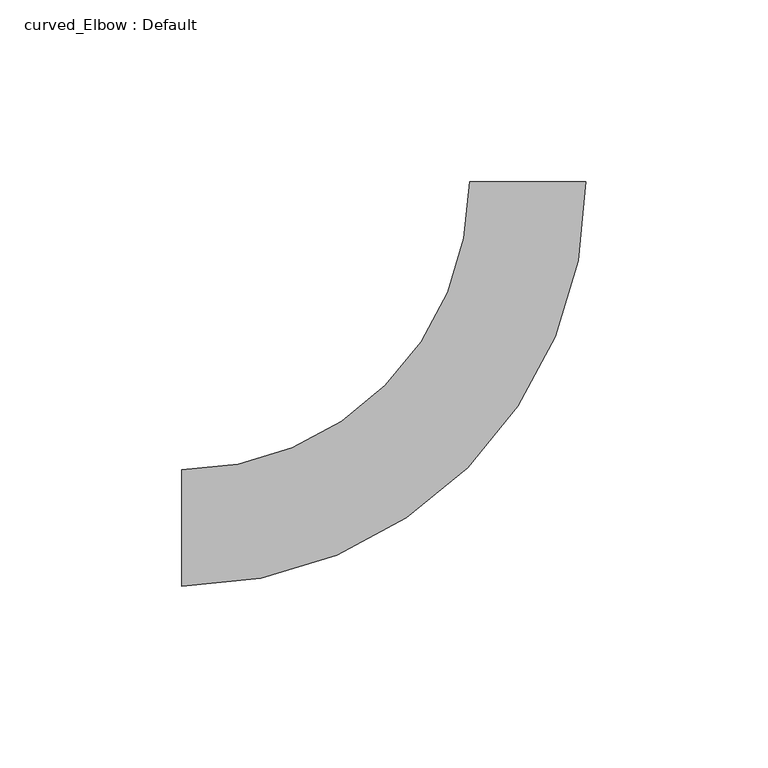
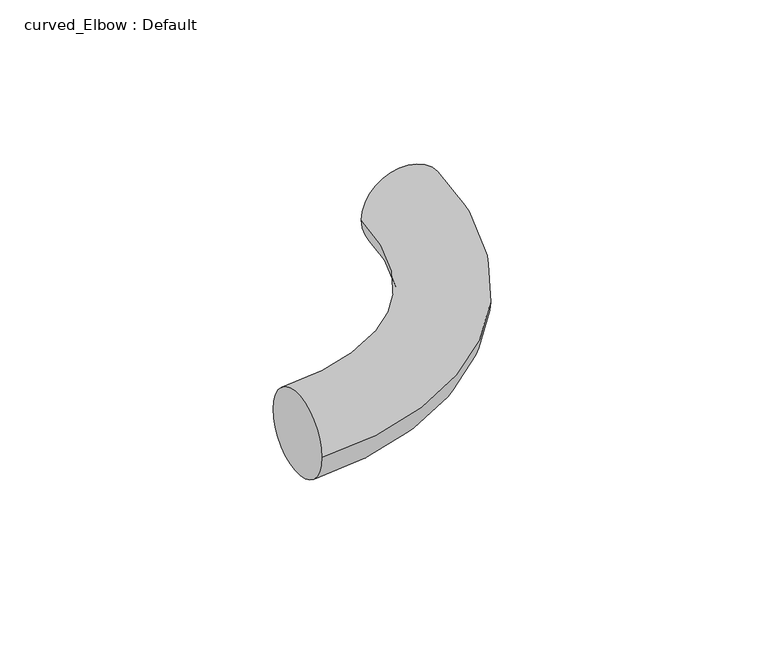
"""IFC4 building model written with IfcOpenShell, lengths in millimetres: pipe fitting geometry, curved_Elbow : Default."""

from ifc_helpers import new_model, si_unit, point, frame, origin, place, context, project, spatial, circle_curve, ellipse_curve, trimmed, source, transform, mapped, element, save
from ifc_brep_helpers import plane_surface, revolved_surface, advanced_brep


def curved_elbow_default_c54697c8(model_context):
    return source(origin(), model_context, "Body", "AdvancedBrep", [
        advanced_brep(
        [(-95.0, -16.0, 0.0), (-95.0, 16.0, 0.0), (16.0, 95.0, 0.0), (-16.0, 95.0, 0.0)],
        [
            (0, 1, circle_curve(frame((-95.0, 0.0, 0.0), z_axis=(-1.0, 0.0, 0.0), x_axis=(0.0, 1.0, 0.0)), 16.0)),
            (1, 0, circle_curve(frame((-95.0, 0.0, 0.0), z_axis=(-1.0, 0.0, 0.0), x_axis=(0.0, 1.0, 0.0)), 16.0)),
            (2, 3, circle_curve(frame((0.0, 95.0, 0.0), z_axis=(0.0, 1.0, 0.0), x_axis=(-1.0, 0.0, 0.0)), 16.0)),
            (3, 2, circle_curve(frame((0.0, 95.0, 0.0), z_axis=(0.0, 1.0, 0.0), x_axis=(-1.0, 0.0, 0.0)), 16.0)),
            (3, 1, circle_curve(frame((-95.0, 95.0, 0.0), z_axis=(0.0, 0.0, -1.0), x_axis=(0.0, -1.0, 0.0)), 79.0)),
            (0, 2, circle_curve(frame((-95.0, 95.0, 0.0), z_axis=(0.0, 0.0, 1.0), x_axis=(0.0, -1.0, 0.0)), 111.0)),
        ],
        [
            plane_surface(frame((-95.0, 0.0, 0.0), z_axis=(-1.0, 0.0, 0.0), x_axis=(0.0, 0.0, 1.0))),
            plane_surface(frame((0.0, 95.0, 0.0), z_axis=(0.0, 1.0, 0.0), x_axis=(0.0, 0.0, 1.0))),
            revolved_surface(trimmed(ellipse_curve(frame((-95.0, 0.0, 0.0), z_axis=(-1.0, 0.0, 0.0), x_axis=(0.0, 1.0, 0.0)), 16.0, 16.0), [point((-95.0, -16.0, 0.0))], [point((-95.0, 16.0, 0.0))], True, "CARTESIAN"), (-95.0, 95.0, 0.0), (0.0, 0.0, 1.0)),
            revolved_surface(trimmed(ellipse_curve(frame((-95.0, 0.0, 0.0), z_axis=(-1.0, 0.0, 0.0), x_axis=(0.0, 1.0, 0.0)), 16.0, 16.0), [point((-95.0, 16.0, 0.0))], [point((-95.0, -16.0, 0.0))], True, "CARTESIAN"), (-95.0, 95.0, 0.0), (0.0, 0.0, 1.0)),
        ],
        [
            (0, [[1, 2]]),
            (1, [[3, 4]]),
            (2, [[5, -1, 6, -4]]),
            (3, [[-6, -2, -5, -3]]),
        ],
    ),
    ])


if __name__ == "__main__":
    model = new_model("IFC4")
    model_context = context("Model", 3, world=origin())
    ifc_project = project(units=[si_unit("LENGTHUNIT", "METRE", prefix="MILLI")], contexts=[model_context])
    site = spatial("IfcSite", under=ifc_project)
    building = spatial("IfcBuilding", under=site)
    placement = place(None, origin())
    curved_elbow_default_shape = curved_elbow_default_c54697c8(model_context)
    element("IfcPipeFitting", 1, ObjectType="curved_Elbow : Default", at=placement, inside=building, context=model_context, shape_type="MappedRepresentation", body=[
        mapped(curved_elbow_default_shape, transform((0.0, 0.0, 0.0), x_axis=(1.0, 0.0, 0.0), y_axis=(0.0, 1.0, 0.0), z_axis=(0.0, 0.0, 1.0))),
    ])
    save(model, "model.ifc")
